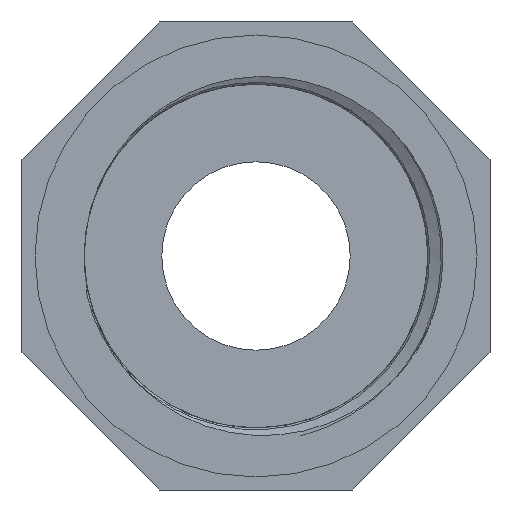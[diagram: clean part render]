
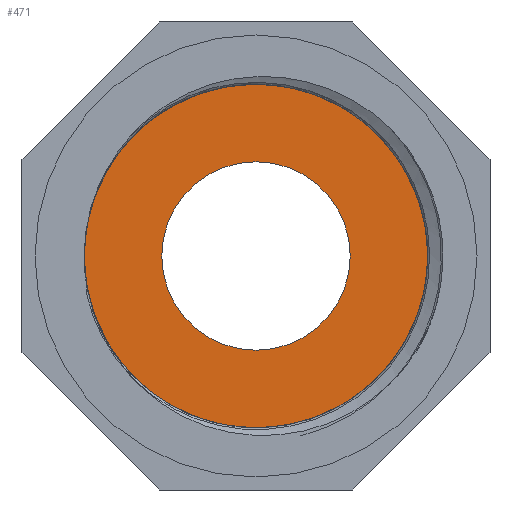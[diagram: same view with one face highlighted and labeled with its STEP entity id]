
A CAD part, front view. The second image highlights one B-rep face of the part: STEP entity #471.
In plain terms, the highlighted planar face has unit normal (0, -1, 0).
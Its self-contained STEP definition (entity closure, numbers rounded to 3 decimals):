
#18=FACE_BOUND('',#159,.T.);
#39=PLANE('',#502);
#126=FACE_OUTER_BOUND('',#158,.T.);
#158=EDGE_LOOP('',(#411));
#159=EDGE_LOOP('',(#412));
#177=CIRCLE('',#501,7.25);
#178=CIRCLE('',#503,13.221);
#242=VERTEX_POINT('',#7176);
#243=VERTEX_POINT('',#7179);
#306=EDGE_CURVE('',#242,#242,#177,.T.);
#307=EDGE_CURVE('',#243,#243,#178,.T.);
#411=ORIENTED_EDGE('',*,*,#307,.F.);
#412=ORIENTED_EDGE('',*,*,#306,.T.);
#471=ADVANCED_FACE('',(#126,#18),#39,.T.);
#501=AXIS2_PLACEMENT_3D('',#7177,#587,#588);
#502=AXIS2_PLACEMENT_3D('',#7178,#589,#590);
#503=AXIS2_PLACEMENT_3D('',#7180,#591,#592);
#587=DIRECTION('center_axis',(0.,1.,0.));
#588=DIRECTION('ref_axis',(1.,0.,0.));
#589=DIRECTION('center_axis',(0.,-1.,0.));
#590=DIRECTION('ref_axis',(0.,0.,-1.));
#591=DIRECTION('center_axis',(0.,1.,0.));
#592=DIRECTION('ref_axis',(1.,0.,0.));
#7176=CARTESIAN_POINT('',(-7.25,19.6,0.));
#7177=CARTESIAN_POINT('Origin',(0.,19.6,0.));
#7178=CARTESIAN_POINT('Origin',(-13.221,19.6,0.));
#7179=CARTESIAN_POINT('',(-13.221,19.6,0.));
#7180=CARTESIAN_POINT('Origin',(0.,19.6,0.));
